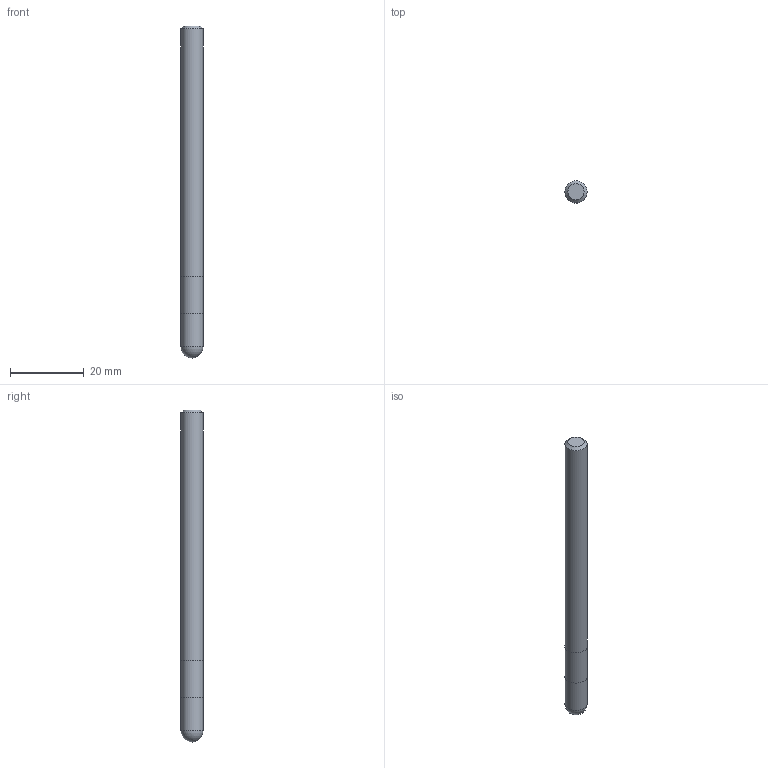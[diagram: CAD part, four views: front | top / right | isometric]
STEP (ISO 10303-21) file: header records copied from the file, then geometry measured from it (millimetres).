
FILE_DESCRIPTION((''),'2;1');
FILE_NAME('C:\Users\nsx150\AppData\Local\Temp\Mastercam 2021\EUJSUNXURU\TEMP.step','2021-04-22T10:23:07',(''),(''),'STEP Write','Mastercam 2021 ... CNC Software, Inc.','');
FILE_SCHEMA(('AUTOMOTIVE_DESIGN'));
Length unit declared in the file: millimetre
Products named in the file (1): None
Bounding box: 6 x 6 x 90 mm (x, y, z)
Volume: 2510.9 mm3; surface area: 1771.6 mm2
Topology: 2 solids, 2 shells, 8 faces, 12 edges, 7 vertices
Faces by surface type: plane 3, cylinder 3, sphere 1, cone 1
Full cylindrical faces by diameter (mm): 6 x3
Entity records: 190 total; most frequent: DIRECTION 32, CARTESIAN_POINT 22, AXIS2_PLACEMENT_3D 16, ORIENTED_EDGE 12, EDGE_LOOP 12, STYLED_ITEM 11, ADVANCED_FACE 8, FACE_BOUND 7
